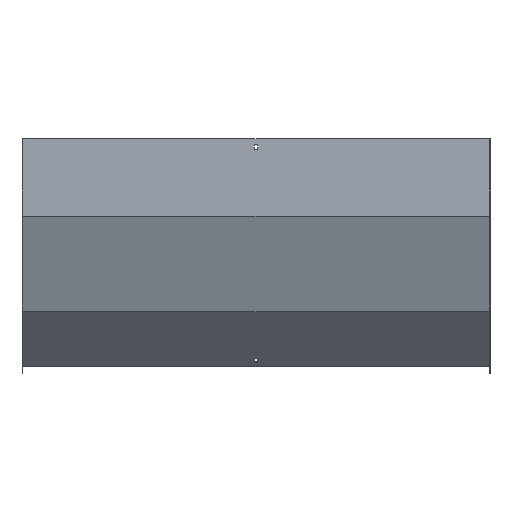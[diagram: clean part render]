
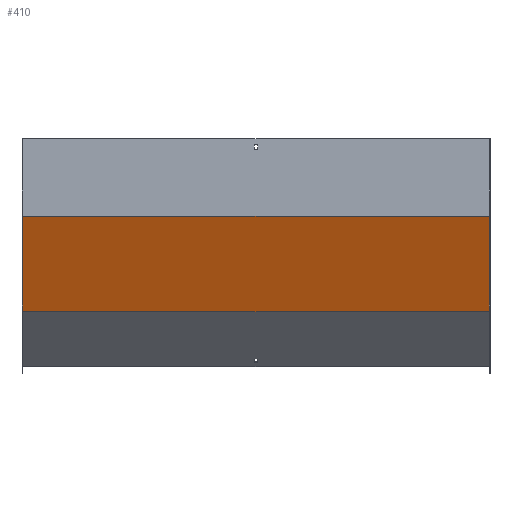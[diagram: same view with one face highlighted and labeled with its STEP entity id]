
A CAD part, front view. The second image highlights one B-rep face of the part: STEP entity #410.
In plain terms, the highlighted planar face has unit normal (0, -0.924, -0.383).
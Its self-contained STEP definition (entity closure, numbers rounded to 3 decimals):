
#48 = VECTOR ( 'NONE', #344, 1000. ) ;
#54 = VERTEX_POINT ( 'NONE', #254 ) ;
#88 = PLANE ( 'NONE',  #222 ) ;
#90 = FACE_OUTER_BOUND ( 'NONE', #764, .T. ) ;
#95 = CARTESIAN_POINT ( 'NONE',  ( 451.5, -1.386, -150.374 ) ) ;
#143 = ORIENTED_EDGE ( 'NONE', *, *, #159, .F. ) ;
#159 = EDGE_CURVE ( 'NONE', #280, #54, #347, .T. ) ;
#176 = VECTOR ( 'NONE', #282, 1000. ) ;
#222 = AXIS2_PLACEMENT_3D ( 'NONE', #95, #614, #470 ) ;
#254 = CARTESIAN_POINT ( 'NONE',  ( 450., 74.691, -334.04 ) ) ;
#267 = ORIENTED_EDGE ( 'NONE', *, *, #381, .T. ) ;
#280 = VERTEX_POINT ( 'NONE', #618 ) ;
#282 = DIRECTION ( 'NONE',  ( -1., 0., 0. ) ) ;
#307 = ORIENTED_EDGE ( 'NONE', *, *, #392, .F. ) ;
#344 = DIRECTION ( 'NONE',  ( -1., 0., 0. ) ) ;
#347 = LINE ( 'NONE', #552, #623 ) ;
#349 = CARTESIAN_POINT ( 'NONE',  ( 451.5, 74.691, -334.04 ) ) ;
#369 = ORIENTED_EDGE ( 'NONE', *, *, #789, .T. ) ;
#381 = EDGE_CURVE ( 'NONE', #280, #398, #399, .T. ) ;
#392 = EDGE_CURVE ( 'NONE', #54, #845, #479, .T. ) ;
#398 = VERTEX_POINT ( 'NONE', #402 ) ;
#399 = LINE ( 'NONE', #732, #176 ) ;
#402 = CARTESIAN_POINT ( 'NONE',  ( -450., -1.5, -150.098 ) ) ;
#406 = CARTESIAN_POINT ( 'NONE',  ( -450., 74.691, -334.04 ) ) ;
#410 = ADVANCED_FACE ( 'NONE', ( #90 ), #88, .F. ) ;
#443 = DIRECTION ( 'NONE',  ( 0., 0.383, -0.924 ) ) ;
#470 = DIRECTION ( 'NONE',  ( 0., -0.383, 0.924 ) ) ;
#479 = LINE ( 'NONE', #349, #48 ) ;
#552 = CARTESIAN_POINT ( 'NONE',  ( 450., -54.348, -22.512 ) ) ;
#596 = DIRECTION ( 'NONE',  ( 0., 0.383, -0.924 ) ) ;
#614 = DIRECTION ( 'NONE',  ( 0., 0.924, 0.383 ) ) ;
#618 = CARTESIAN_POINT ( 'NONE',  ( 450., -1.5, -150.098 ) ) ;
#623 = VECTOR ( 'NONE', #443, 1000. ) ;
#649 = LINE ( 'NONE', #727, #681 ) ;
#681 = VECTOR ( 'NONE', #596, 1000. ) ;
#727 = CARTESIAN_POINT ( 'NONE',  ( -450., -54.348, -22.512 ) ) ;
#732 = CARTESIAN_POINT ( 'NONE',  ( 451.5, -1.5, -150.098 ) ) ;
#764 = EDGE_LOOP ( 'NONE', ( #369, #307, #143, #267 ) ) ;
#789 = EDGE_CURVE ( 'NONE', #398, #845, #649, .T. ) ;
#845 = VERTEX_POINT ( 'NONE', #406 ) ;
